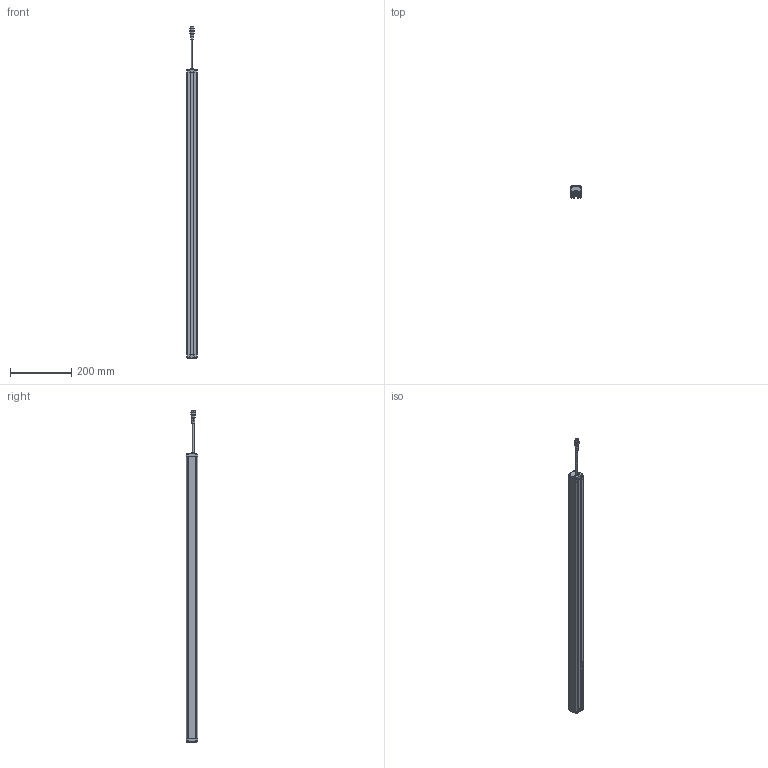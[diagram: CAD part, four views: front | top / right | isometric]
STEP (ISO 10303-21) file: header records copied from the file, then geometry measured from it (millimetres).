
FILE_DESCRIPTION((''),'2;1');
FILE_NAME('PRT0023','2026-03-31T11:20:14',('Administrator'),(''),'CREO PARAMETRIC BY PTC INC, 2016510','CREO PARAMETRIC BY PTC INC, 2016510','');
FILE_SCHEMA(('AUTOMOTIVE_DESIGN { 1 0 10303 214 1 1 1 1 }'));
Length unit declared in the file: millimetre
Products named in the file (1): PRT0023
Bounding box: 33 x 38 x 1081.9 mm (x, y, z)
Surface area: 209438 mm2 (no closed solid volume)
Topology: 0 solids, 12 shells, 819 faces, 2186 edges, 1387 vertices
Faces by surface type: plane 388, cylinder 235, extrusion 88, sphere 40, torus 36, cone 28, bspline 4
Entity records: 32382 total; most frequent: CARTESIAN_POINT 6100, ORIENTED_EDGE 4270, DIRECTION 4045, EDGE_CURVE 2135, VERTEX_POINT 1387, AXIS2_PLACEMENT_3D 1377, VECTOR 1291, LINE 1203
